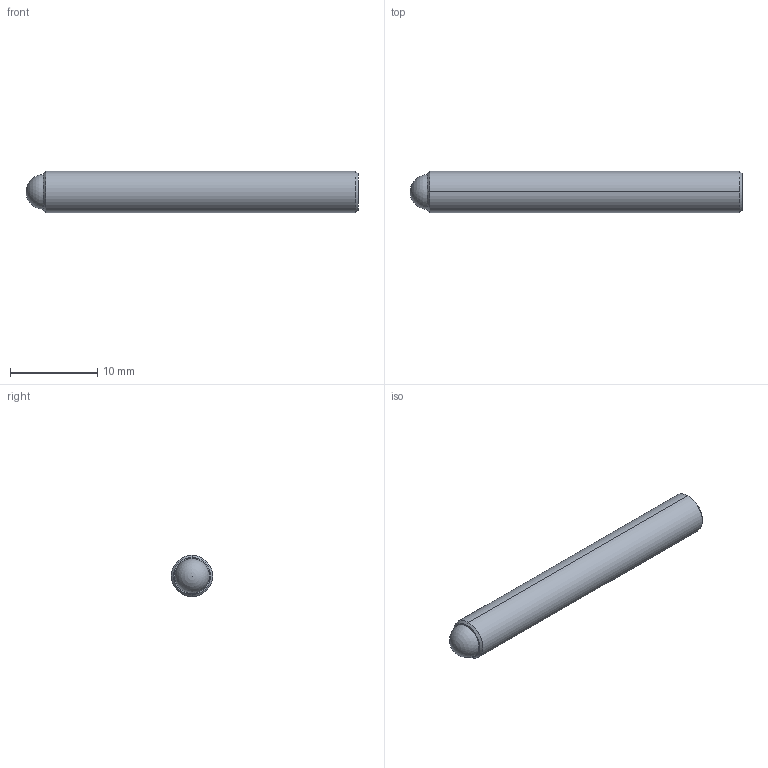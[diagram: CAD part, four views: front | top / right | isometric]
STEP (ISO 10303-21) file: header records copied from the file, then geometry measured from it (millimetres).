
FILE_DESCRIPTION (( 'STEP AP214' ), '1' );
FILE_NAME ('TS187-100-1500-AA.STEP', '2013-02-11T17:10:49', ( 'workpc' ), ( 'Microsoft' ), 'SwSTEP 2.0', 'SolidWorks 2013', '' );
FILE_SCHEMA (( 'AUTOMOTIVE_DESIGN' ));
Length unit declared in the file: inch
Products named in the file (1): TS187-100-1500-AA
Bounding box: 38.1 x 4.75 x 4.75 mm (x, y, z)
Volume: 636 mm3; surface area: 662.8 mm2
Topology: 2 solids, 2 shells, 20 faces, 45 edges, 29 vertices
Faces by surface type: plane 10, cylinder 4, cone 4, sphere 2
Entity records: 599 total; most frequent: DIRECTION 96, CARTESIAN_POINT 87, ORIENTED_EDGE 80, EDGE_CURVE 40, AXIS2_PLACEMENT_3D 35, VERTEX_POINT 26, VECTOR 26, LINE 26
